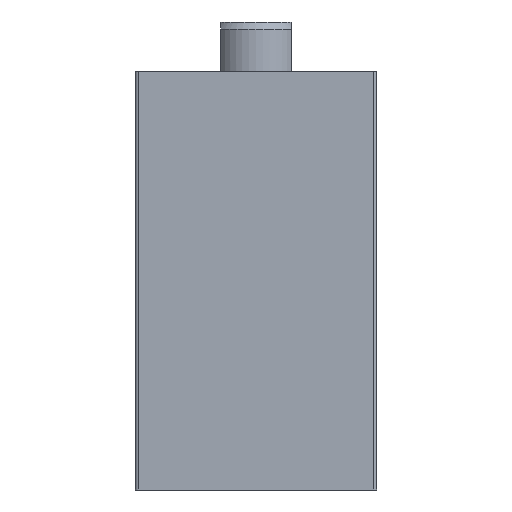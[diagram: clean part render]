
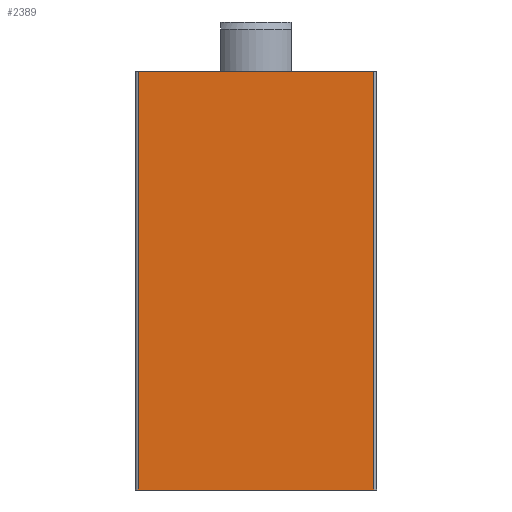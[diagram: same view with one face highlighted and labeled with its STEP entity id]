
A CAD part, front view. The second image highlights one B-rep face of the part: STEP entity #2389.
In plain terms, the highlighted planar face has unit normal (0, -1, 0).
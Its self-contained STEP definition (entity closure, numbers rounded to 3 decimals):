
#2 = CARTESIAN_POINT ( 'NONE',  ( -8.3, -15.5, -14.75 ) ) ;
#14 = DIRECTION ( 'NONE',  ( 1., 0., 0. ) ) ;
#79 = EDGE_CURVE ( 'NONE', #394, #2133, #2431, .T. ) ;
#369 = EDGE_CURVE ( 'NONE', #394, #987, #1667, .T. ) ;
#394 = VERTEX_POINT ( 'NONE', #2001 ) ;
#465 = VECTOR ( 'NONE', #572, 1000. ) ;
#477 = LINE ( 'NONE', #2121, #881 ) ;
#525 = AXIS2_PLACEMENT_3D ( 'NONE', #1855, #2078, #1443 ) ;
#572 = DIRECTION ( 'NONE',  ( 0., 0., -1. ) ) ;
#609 = LINE ( 'NONE', #1008, #2533 ) ;
#838 = EDGE_CURVE ( 'NONE', #1111, #2133, #477, .T. ) ;
#881 = VECTOR ( 'NONE', #1070, 1000. ) ;
#980 = CARTESIAN_POINT ( 'NONE',  ( 8.3, -15.5, 14.75 ) ) ;
#987 = VERTEX_POINT ( 'NONE', #980 ) ;
#998 = FACE_OUTER_BOUND ( 'NONE', #1817, .T. ) ;
#1008 = CARTESIAN_POINT ( 'NONE',  ( 8.3, -15.5, 46.234 ) ) ;
#1070 = DIRECTION ( 'NONE',  ( -1., 0., 0. ) ) ;
#1111 = VERTEX_POINT ( 'NONE', #2048 ) ;
#1115 = ORIENTED_EDGE ( 'NONE', *, *, #79, .T. ) ;
#1148 = ORIENTED_EDGE ( 'NONE', *, *, #369, .F. ) ;
#1429 = DIRECTION ( 'NONE',  ( 0., 0., 1. ) ) ;
#1443 = DIRECTION ( 'NONE',  ( 0., 0., 1. ) ) ;
#1667 = LINE ( 'NONE', #2488, #2418 ) ;
#1713 = ORIENTED_EDGE ( 'NONE', *, *, #1718, .T. ) ;
#1718 = EDGE_CURVE ( 'NONE', #1111, #987, #609, .T. ) ;
#1817 = EDGE_LOOP ( 'NONE', ( #1148, #1115, #2518, #1713 ) ) ;
#1855 = CARTESIAN_POINT ( 'NONE',  ( -8.5, -15.5, 46.234 ) ) ;
#2001 = CARTESIAN_POINT ( 'NONE',  ( -8.3, -15.5, 14.75 ) ) ;
#2013 = CARTESIAN_POINT ( 'NONE',  ( -8.3, -15.5, 46.234 ) ) ;
#2048 = CARTESIAN_POINT ( 'NONE',  ( 8.3, -15.5, -14.75 ) ) ;
#2078 = DIRECTION ( 'NONE',  ( 0., 1., 0. ) ) ;
#2121 = CARTESIAN_POINT ( 'NONE',  ( -8.5, -15.5, -14.75 ) ) ;
#2133 = VERTEX_POINT ( 'NONE', #2 ) ;
#2389 = ADVANCED_FACE ( 'NONE', ( #998 ), #2445, .F. ) ;
#2418 = VECTOR ( 'NONE', #14, 1000. ) ;
#2431 = LINE ( 'NONE', #2013, #465 ) ;
#2445 = PLANE ( 'NONE',  #525 ) ;
#2488 = CARTESIAN_POINT ( 'NONE',  ( -8.5, -15.5, 14.75 ) ) ;
#2518 = ORIENTED_EDGE ( 'NONE', *, *, #838, .F. ) ;
#2533 = VECTOR ( 'NONE', #1429, 1000. ) ;
